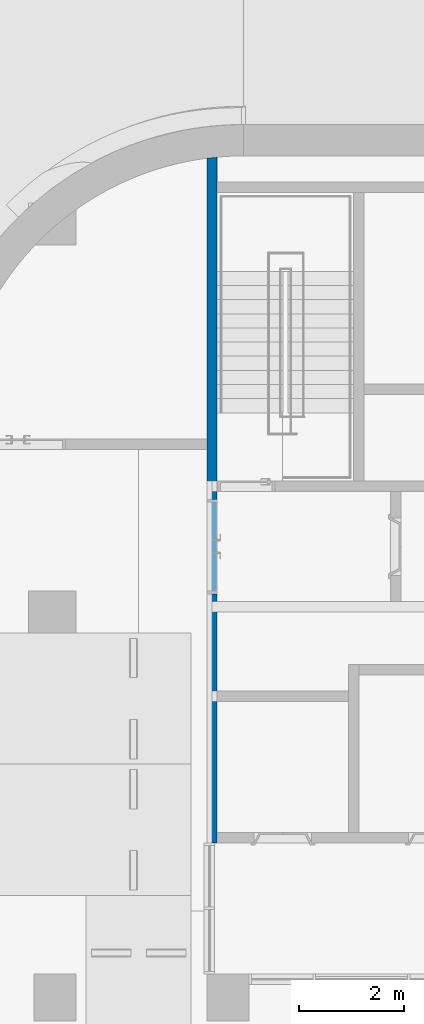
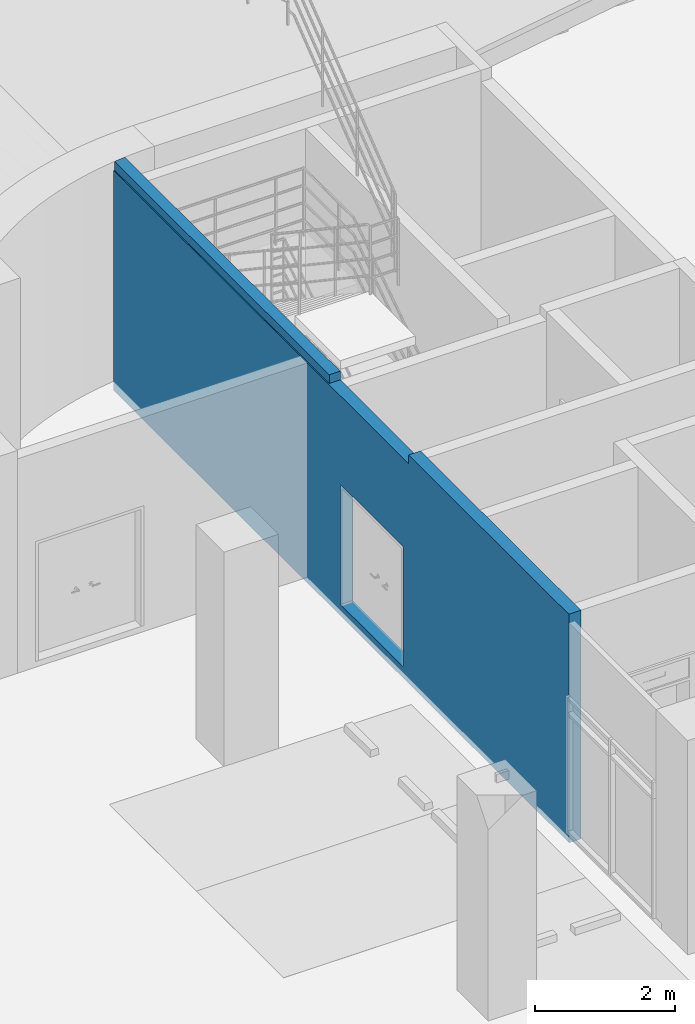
# One storey, part 20 of 30: 1 wall, 1 opening.
"""IFC2X3 building model written with IfcOpenShell, lengths in millimetres."""

from ifc_helpers import new_model, entity, si_unit, converted_unit, derived_unit, direction, frame, frame_2d, origin, place, context, subcontext, project, spatial, rectangle, extrude, faceted_brep, material, layer, layer_set, type_object, element, save


model = new_model("IFC2X3")

# Units and contexts
model_context = context("Model", 3, precision=0.01, world=origin(), true_north=direction((6.123031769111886e-17, 1.0)))
body_context = subcontext(model_context, "Body", "Model", "MODEL_VIEW")
ifc_project = project(units=[si_unit("LENGTHUNIT", "METRE", prefix="MILLI"), si_unit("AREAUNIT", "SQUARE_METRE"), si_unit("VOLUMEUNIT", "CUBIC_METRE"), converted_unit("PLANEANGLEUNIT", "DEGREE", entity("IfcRatioMeasure", 0.017453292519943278), si_unit("PLANEANGLEUNIT", "RADIAN"), dimensions=[0, 0, 0, 0, 0, 0, 0]), si_unit("MASSUNIT", "GRAM", prefix="KILO"), derived_unit("MASSDENSITYUNIT", [(si_unit("MASSUNIT", "GRAM", prefix="KILO"), 1), (si_unit("LENGTHUNIT", "METRE"), -3)]), derived_unit("MOMENTOFINERTIAUNIT", [(si_unit("LENGTHUNIT", "METRE"), 4)]), si_unit("TIMEUNIT", "SECOND"), si_unit("FREQUENCYUNIT", "HERTZ"), si_unit("THERMODYNAMICTEMPERATUREUNIT", "DEGREE_CELSIUS"), derived_unit("THERMALTRANSMITTANCEUNIT", [(si_unit("MASSUNIT", "GRAM", prefix="KILO"), 1), (si_unit("THERMODYNAMICTEMPERATUREUNIT", "KELVIN"), -1), (si_unit("TIMEUNIT", "SECOND"), -3)]), derived_unit("VOLUMETRICFLOWRATEUNIT", [(si_unit("LENGTHUNIT", "METRE"), 3), (si_unit("TIMEUNIT", "SECOND"), -1)]), derived_unit("MASSFLOWRATEUNIT", [(si_unit("MASSUNIT", "GRAM", prefix="KILO"), 1), (si_unit("TIMEUNIT", "SECOND"), -1)]), derived_unit("ROTATIONALFREQUENCYUNIT", [(si_unit("TIMEUNIT", "SECOND"), -1)]), si_unit("ELECTRICCURRENTUNIT", "AMPERE"), si_unit("ELECTRICVOLTAGEUNIT", "VOLT"), si_unit("POWERUNIT", "WATT"), si_unit("FORCEUNIT", "NEWTON", prefix="KILO"), si_unit("ILLUMINANCEUNIT", "LUX"), si_unit("LUMINOUSFLUXUNIT", "LUMEN"), si_unit("LUMINOUSINTENSITYUNIT", "CANDELA"), derived_unit("USERDEFINED", [(si_unit("MASSUNIT", "GRAM", prefix="KILO"), -1), (si_unit("LENGTHUNIT", "METRE"), -2), (si_unit("TIMEUNIT", "SECOND"), 3), (si_unit("LUMINOUSFLUXUNIT", "LUMEN"), 1)]), derived_unit("SOUNDPOWERUNIT", [(si_unit("MASSUNIT", "GRAM", prefix="KILO"), 1), (si_unit("LENGTHUNIT", "METRE"), 2), (si_unit("TIMEUNIT", "SECOND"), -3)]), derived_unit("SOUNDPRESSUREUNIT", [(si_unit("MASSUNIT", "GRAM", prefix="KILO"), 1), (si_unit("LENGTHUNIT", "METRE"), -1), (si_unit("TIMEUNIT", "SECOND"), -2)]), derived_unit("LINEARVELOCITYUNIT", [(si_unit("LENGTHUNIT", "METRE"), 1), (si_unit("TIMEUNIT", "SECOND"), -1)]), si_unit("PRESSUREUNIT", "PASCAL"), derived_unit("USERDEFINED", [(si_unit("LENGTHUNIT", "METRE"), -2), (si_unit("MASSUNIT", "GRAM", prefix="KILO"), 1), (si_unit("TIMEUNIT", "SECOND"), -2)]), derived_unit("LINEARFORCEUNIT", [(si_unit("MASSUNIT", "GRAM", prefix="KILO"), 1), (si_unit("LENGTHUNIT", "METRE"), 1), (si_unit("TIMEUNIT", "SECOND"), -2), (si_unit("LENGTHUNIT", "METRE"), -1)]), derived_unit("PLANARFORCEUNIT", [(si_unit("MASSUNIT", "GRAM", prefix="KILO"), 1), (si_unit("LENGTHUNIT", "METRE"), 1), (si_unit("TIMEUNIT", "SECOND"), -2), (si_unit("LENGTHUNIT", "METRE"), -2)])], contexts=[model_context])

# Site, building, storey
site_placement = place(None, frame((-14167.972527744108, -657.2125860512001, 0.0)))
site = spatial("IfcSite", under=ifc_project, at=site_placement, Name="Default", CompositionType="ELEMENT")
building_placement = place(site_placement, origin())
building = spatial("IfcBuilding", under=site, at=building_placement, Name="Sample Building", CompositionType="ELEMENT")
storey_placement = place(building_placement, frame((0.0, 0.0, -10100.0)))
storey = spatial("IfcBuildingStorey", under=building, at=storey_placement, Name="지하2층", CompositionType="ELEMENT", Elevation=-10100.0)

# Wall, opening
ifc_material = material(Name="KBIMS-콘크리트")
ifc_layer = layer(ifc_material, 200.0)
ifc_layer_set = layer_set([ifc_layer], Name="기본 벽:WA111-철근콘크리트구조 벽 200mm_CW1")
wall_type = type_object("IfcWallType", Name="기본 벽:WA111-철근콘크리트구조 벽 200mm_CW1", PredefinedType="STANDARD", material=ifc_layer_set)
wall_placement = place(storey_placement, frame((30166.125814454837, 15557.212586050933, 0.0), z_axis=(0.0, 0.0, 1.0), x_axis=(0.0, 1.0, 0.0)))
wall = element("IfcWall", 1, at=wall_placement, inside=storey, type_object=wall_type, Name="기본 벽:WA111-철근콘크리트구조 벽 200mm_CW1", ObjectType="기본 벽:WA111-철근콘크리트구조 벽 200mm_CW1", context=body_context, shape_type="Brep", body=[
    faceted_brep([(4399.99972193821, -100.0, 4000.0), (4599.999827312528, -100.0, 4000.0), (4599.999827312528, 100.0, 4000.0), (0.0, 100.0, 4000.0), (0.0, -100.0, 4000.0), (200.0, -100.0, 4000.0), (2699.9997236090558, -100.0, 4000.0), (2899.9997236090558, -100.0, 4000.0), (12599.999721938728, -100.0, 4000.0), (13077.056405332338, -100.0, 4000.0), (13067.927849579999, -8.751413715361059, 4000.0), (13057.279339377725, 82.33106125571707, 4000.0), (6899.999725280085, 82.33106125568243, 4000.0), (6899.999725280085, -100.0, 4000.0), (12399.999721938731, -100.0, 4000.0), (200.0, -100.0, 0.0), (0.0, -100.0, 3850.0), (0.0, -100.0, 0.0), (2699.9997236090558, -100.0, 0.0), (4749.999723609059, -100.0, 2300.0), (2899.9997236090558, -100.0, 0.0), (4399.99972193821, -100.0, 0.0), (4749.999723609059, -100.0, 200.0), (4599.9997219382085, -100.0, 0.0), (6699.999725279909, -100.0, 0.0), (6549.999723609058, -100.0, 200.0), (6899.999725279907, -100.0, 0.0), (6549.999723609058, -100.0, 2300.0), (12399.999721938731, -100.0, 0.0), (13077.056405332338, -100.0, 3150.0), (12599.999721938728, -100.0, 0.0), (13077.056405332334, -100.0, 2362.5), (13077.056405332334, -100.0, 1575.0), (13077.056405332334, -100.0, 647.379332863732), (13077.056405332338, -100.0, 0.0), (6899.999725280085, -100.0, 3850.0), (6699.999725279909, -100.0, 3850.0), (4599.999827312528, -100.0, 3850.0), (7699.999721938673, 100.0, 0.0), (13055.0351244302, 100.0, 3150.0), (13055.035124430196, 100.0, 2222.3793328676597), (7699.999721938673, 100.0, 3850.0), (6549.999723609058, 100.0, 2300.0), (7508.235893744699, 100.0, 100.0), (7508.235893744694, 100.0, 0.0), (13055.035124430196, 100.0, 1294.7586657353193), (13055.035124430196, 100.0, 647.3793328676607), (13055.0351244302, 100.0, 0.0), (6549.999723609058, 100.0, 200.0), (4749.999723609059, 100.0, 200.0), (0.0, 100.0, 100.0), (4749.999723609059, 100.0, 2300.0), (0.0, 100.0, 3150.0), (4599.999827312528, 100.0, 3850.0), (0.0, 100.0, 3850.0), (7499.9997219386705, 100.0, 3850.0), (13055.0351244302, 100.0, 3850.0), (0.0, 98.15335075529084, 0.0), (7508.235893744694, 98.15335075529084, 0.0), (13066.960426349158, 0.10071008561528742, 0.0), (0.0, 98.15335075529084, 100.0), (13066.960426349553, 0.10071008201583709, 971.0689993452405), (13066.960426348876, 0.10071008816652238, 2756.249999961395), (13067.437815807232, -4.250918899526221, 1967.5797450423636), (13056.16438417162, 91.16643907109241, 3850.0), (13057.279339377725, 82.33106125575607, 3850.0), (6899.999725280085, 82.33106125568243, 3850.0), (7508.235893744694, 98.15335075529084, 100.0)], [[[0, 1, 2, 3, 4, 5, 6, 7]], [[8, 9, 10, 11, 12, 13, 14]], [[15, 16, 17]], [[18, 16, 15]], [[16, 18, 6]], [[19, 6, 18]], [[20, 19, 18]], [[19, 20, 21]], [[22, 19, 21]], [[23, 22, 21]], [[22, 23, 24]], [[25, 22, 24]], [[26, 25, 24]], [[26, 27, 25]], [[26, 28, 27]], [[27, 28, 14]], [[29, 14, 28]], [[28, 30, 29]], [[30, 31, 29]], [[30, 32, 31]], [[30, 33, 32]], [[30, 34, 33]], [[14, 29, 8]], [[9, 8, 29]], [[14, 35, 27]], [[13, 35, 14]], [[35, 36, 27]], [[27, 36, 37]], [[37, 0, 19]], [[37, 1, 0]], [[27, 37, 19]], [[19, 7, 6]], [[7, 19, 0]], [[16, 6, 5]], [[5, 4, 16]], [[38, 39, 40]], [[41, 39, 38]], [[42, 41, 38]], [[42, 38, 43]], [[44, 43, 38]], [[38, 40, 45]], [[38, 45, 46]], [[38, 46, 47]], [[42, 43, 48]], [[49, 48, 43]], [[49, 43, 50]], [[49, 50, 51]], [[51, 50, 52]], [[53, 51, 52]], [[52, 54, 53]], [[2, 53, 54]], [[54, 3, 2]], [[42, 51, 53]], [[53, 55, 42]], [[41, 42, 55]], [[56, 39, 41]], [[18, 15, 17, 57, 58, 44, 38, 47, 59, 34, 30, 28, 26, 24, 23, 21, 20]], [[52, 50, 60, 57, 17, 16, 4, 3, 54]], [[61, 32, 33, 34, 59]], [[62, 29, 31]], [[31, 63, 62]], [[39, 64, 65]], [[64, 39, 56]], [[59, 47, 46, 45, 61]], [[40, 39, 62]], [[62, 39, 10]], [[10, 65, 11]], [[29, 10, 9]], [[40, 62, 63]], [[40, 63, 45]], [[62, 10, 29]], [[63, 31, 32]], [[39, 65, 10]], [[63, 61, 45]], [[61, 63, 32]], [[41, 55, 53, 37, 36, 35, 66, 65, 64, 56]], [[11, 65, 66, 12]], [[13, 12, 66, 35]], [[1, 37, 53, 2]], [[22, 49, 51, 19]], [[19, 51, 42, 27]], [[27, 42, 48, 25]], [[25, 48, 49, 22]], [[67, 60, 50, 43]], [[43, 44, 58, 67]], [[60, 67, 58, 57]]]),
])
opening_placement = place(wall_placement, frame((6549.999723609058, 100.0, 200.0)))
element("IfcOpeningElement", 2, at=opening_placement, cuts=wall, Name="DR121-쌍여닫이문(철재, 방화문):DR121-쌍여닫이문(철재, 방화문) 1800x2100mm:1", ObjectType="Opening", context=body_context, shape_type="SweptSolid", body=[
    extrude(rectangle(XDim=2099.999999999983, YDim=1799.9999999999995, at=frame_2d((1049.999999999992, 899.9999999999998), x_axis=(1.0, 0.0))), frame((0.0, 0.0, 0.0), z_axis=(0.0, -1.0, 0.0), x_axis=(0.0, 0.0, 1.0)), (0.0, 0.0, 1.0), 200.0),
])

save(model, "model.ifc")
